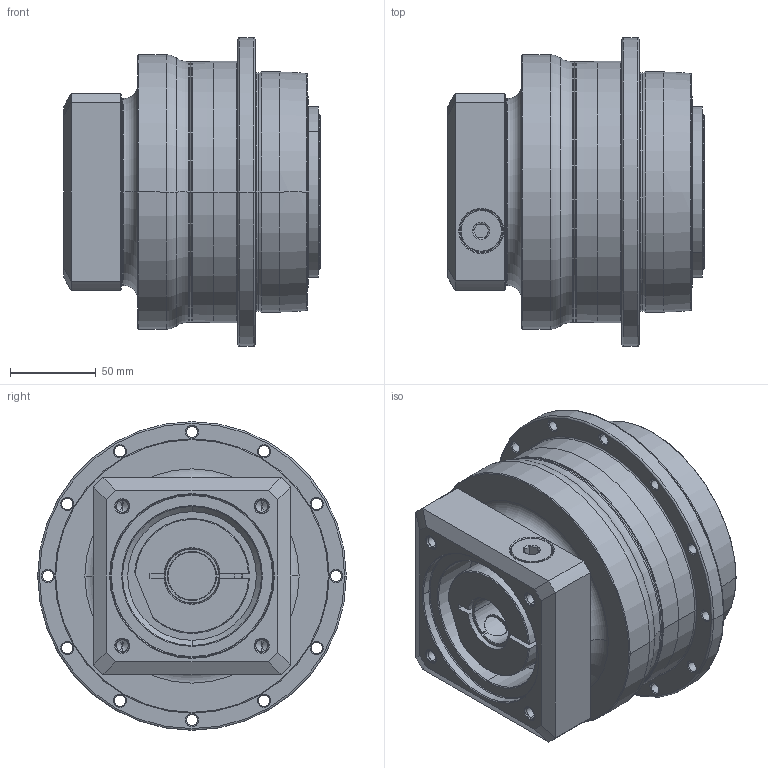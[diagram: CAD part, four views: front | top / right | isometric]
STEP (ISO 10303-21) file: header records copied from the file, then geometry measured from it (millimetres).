
FILE_DESCRIPTION((''),'2;1');
FILE_NAME('AH140_1ST_28-P0409600101_ASM','2016-08-11T',('d00435'),(''),'PRO/ENGINEER BY PARAMETRIC TECHNOLOGY CORPORATION, 2008410','PRO/ENGINEER BY PARAMETRIC TECHNOLOGY CORPORATION, 2008410','');
FILE_SCHEMA(('CONFIG_CONTROL_DESIGN'));
Length unit declared in the file: millimetre
Products named in the file (8): P0278500003; P0359500003; P1318500101; P0409600101; P0503600010; P0912501201; 21711418017; AH140_1ST_28-P0409600101_ASM
Assembly tree (7 placements, depth 2):
  AH140_1ST_28-P0409600101_ASM
    P0278500003
    P0359500003
    P1318500101
    P0409600101
    P0503600010
    P0912501201
    21711418017
Bounding box: 149.5 x 180 x 180 mm (x, y, z)
Volume: 2215557.7 mm3; surface area: 291006.5 mm2
Topology: 8 solids, 32 shells, 612 faces, 1419 edges, 861 vertices
Faces by surface type: cylinder 254, cone 168, plane 116, torus 60, bspline 14
Entity records: 22030 total; most frequent: CARTESIAN_POINT 7708, DIRECTION 3277, ORIENTED_EDGE 2650, AXIS2_PLACEMENT_3D 1392, EDGE_CURVE 1373, VERTEX_POINT 861, CIRCLE 769, EDGE_LOOP 734
